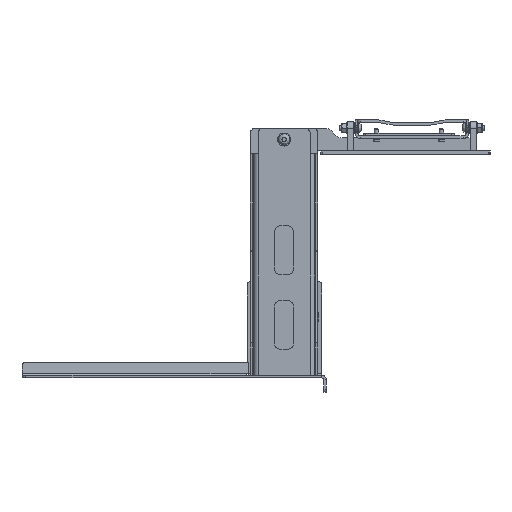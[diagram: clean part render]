
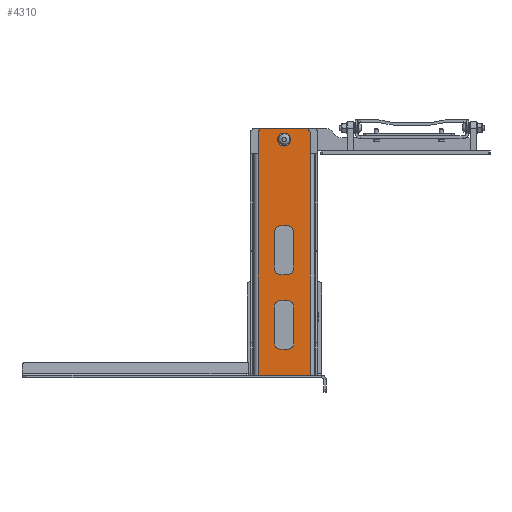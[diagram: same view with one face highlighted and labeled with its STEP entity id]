
A CAD part, front view. The second image highlights one B-rep face of the part: STEP entity #4310.
In plain terms, the highlighted planar face has unit normal (0, -1, 0) as drawn and (0, 1, 0) by its records, which use the part's own axes.
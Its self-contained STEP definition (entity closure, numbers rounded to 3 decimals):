
#4310=ADVANCED_FACE('',(#6431,#6432,#6433,#6434),#6435,.T.);
#6431=FACE_BOUND('',#9123,.T.);
#6432=FACE_BOUND('',#9124,.T.);
#6433=FACE_BOUND('',#9125,.T.);
#6434=FACE_OUTER_BOUND('',#9126,.T.);
#6435=PLANE('',#9127);
#9123=EDGE_LOOP('',(#14320,#14321,#14322,#14323,#14324,#14325,#14326,#14327));
#9124=EDGE_LOOP('',(#14328));
#9125=EDGE_LOOP('',(#14329,#14330,#14331,#14332,#14333,#14334,#14335,#14336));
#9126=EDGE_LOOP('',(#14337,#14338,#14339,#14340,#14341,#14342,#14343,#14344,#14345,#14346,#14347,#14348));
#9127=AXIS2_PLACEMENT_3D('',#14349,#14350,#14351);
#14320=ORIENTED_EDGE('',*,*,#20742,.F.);
#14321=ORIENTED_EDGE('',*,*,#20743,.F.);
#14322=ORIENTED_EDGE('',*,*,#20744,.F.);
#14323=ORIENTED_EDGE('',*,*,#20745,.F.);
#14324=ORIENTED_EDGE('',*,*,#20746,.F.);
#14325=ORIENTED_EDGE('',*,*,#20747,.F.);
#14326=ORIENTED_EDGE('',*,*,#20748,.F.);
#14327=ORIENTED_EDGE('',*,*,#20749,.F.);
#14328=ORIENTED_EDGE('',*,*,#20750,.F.);
#14329=ORIENTED_EDGE('',*,*,#20751,.F.);
#14330=ORIENTED_EDGE('',*,*,#20752,.F.);
#14331=ORIENTED_EDGE('',*,*,#20753,.F.);
#14332=ORIENTED_EDGE('',*,*,#20754,.F.);
#14333=ORIENTED_EDGE('',*,*,#20755,.F.);
#14334=ORIENTED_EDGE('',*,*,#20756,.F.);
#14335=ORIENTED_EDGE('',*,*,#20757,.F.);
#14336=ORIENTED_EDGE('',*,*,#20758,.F.);
#14337=ORIENTED_EDGE('',*,*,#20759,.T.);
#14338=ORIENTED_EDGE('',*,*,#20760,.T.);
#14339=ORIENTED_EDGE('',*,*,#20761,.T.);
#14340=ORIENTED_EDGE('',*,*,#20762,.T.);
#14341=ORIENTED_EDGE('',*,*,#20763,.T.);
#14342=ORIENTED_EDGE('',*,*,#20764,.F.);
#14343=ORIENTED_EDGE('',*,*,#20765,.T.);
#14344=ORIENTED_EDGE('',*,*,#20683,.F.);
#14345=ORIENTED_EDGE('',*,*,#20766,.F.);
#14346=ORIENTED_EDGE('',*,*,#20767,.F.);
#14347=ORIENTED_EDGE('',*,*,#20701,.T.);
#14348=ORIENTED_EDGE('',*,*,#20768,.T.);
#14349=CARTESIAN_POINT('',(150.0,289.0,320.0));
#14350=DIRECTION('',(0.0,1.0,0.0));
#14351=DIRECTION('',(-1.0,0.0,0.0));
#20683=EDGE_CURVE('',#24020,#24023,#24024,.T.);
#20701=EDGE_CURVE('',#24053,#24054,#24055,.T.);
#20742=EDGE_CURVE('',#24130,#24131,#24132,.T.);
#20743=EDGE_CURVE('',#24133,#24130,#24134,.T.);
#20744=EDGE_CURVE('',#24135,#24133,#24136,.T.);
#20745=EDGE_CURVE('',#24137,#24135,#24138,.T.);
#20746=EDGE_CURVE('',#24139,#24137,#24140,.T.);
#20747=EDGE_CURVE('',#24141,#24139,#24142,.T.);
#20748=EDGE_CURVE('',#24143,#24141,#24144,.T.);
#20749=EDGE_CURVE('',#24131,#24143,#24145,.T.);
#20750=EDGE_CURVE('',#24146,#24146,#24147,.T.);
#20751=EDGE_CURVE('',#24148,#24149,#24150,.T.);
#20752=EDGE_CURVE('',#24151,#24148,#24152,.T.);
#20753=EDGE_CURVE('',#24153,#24151,#24154,.T.);
#20754=EDGE_CURVE('',#24155,#24153,#24156,.T.);
#20755=EDGE_CURVE('',#24157,#24155,#24158,.T.);
#20756=EDGE_CURVE('',#24159,#24157,#24160,.T.);
#20757=EDGE_CURVE('',#24161,#24159,#24162,.T.);
#20758=EDGE_CURVE('',#24149,#24161,#24163,.T.);
#20759=EDGE_CURVE('',#24164,#24165,#24166,.T.);
#20760=EDGE_CURVE('',#24165,#24167,#24168,.T.);
#20761=EDGE_CURVE('',#24167,#24169,#24170,.F.);
#20762=EDGE_CURVE('',#24169,#24171,#24172,.T.);
#20763=EDGE_CURVE('',#24171,#24173,#24174,.F.);
#20764=EDGE_CURVE('',#24175,#24173,#24176,.T.);
#20765=EDGE_CURVE('',#24175,#24023,#24177,.T.);
#20766=EDGE_CURVE('',#24178,#24020,#24179,.T.);
#20767=EDGE_CURVE('',#24053,#24178,#24180,.T.);
#20768=EDGE_CURVE('',#24054,#24164,#24181,.T.);
#24020=VERTEX_POINT('',#29103);
#24023=VERTEX_POINT('',#29107);
#24024=LINE('',#29108,#29109);
#24053=VERTEX_POINT('',#29151);
#24054=VERTEX_POINT('',#29152);
#24055=LINE('',#29153,#29154);
#24130=VERTEX_POINT('',#29341);
#24131=VERTEX_POINT('',#29342);
#24132=LINE('',#29343,#29344);
#24133=VERTEX_POINT('',#29345);
#24134=CIRCLE('',#29346,10.0);
#24135=VERTEX_POINT('',#29347);
#24136=LINE('',#29348,#29349);
#24137=VERTEX_POINT('',#29350);
#24138=CIRCLE('',#29351,10.0);
#24139=VERTEX_POINT('',#29352);
#24140=LINE('',#29353,#29354);
#24141=VERTEX_POINT('',#29355);
#24142=CIRCLE('',#29356,10.0);
#24143=VERTEX_POINT('',#29357);
#24144=LINE('',#29358,#29359);
#24145=CIRCLE('',#29360,10.0);
#24146=VERTEX_POINT('',#29361);
#24147=CIRCLE('',#29362,5.1);
#24148=VERTEX_POINT('',#29363);
#24149=VERTEX_POINT('',#29364);
#24150=LINE('',#29365,#29366);
#24151=VERTEX_POINT('',#29367);
#24152=CIRCLE('',#29368,10.0);
#24153=VERTEX_POINT('',#29369);
#24154=LINE('',#29370,#29371);
#24155=VERTEX_POINT('',#29372);
#24156=CIRCLE('',#29373,10.0);
#24157=VERTEX_POINT('',#29374);
#24158=LINE('',#29375,#29376);
#24159=VERTEX_POINT('',#29377);
#24160=CIRCLE('',#29378,10.0);
#24161=VERTEX_POINT('',#29379);
#24162=LINE('',#29380,#29381);
#24163=CIRCLE('',#29382,10.0);
#24164=VERTEX_POINT('',#29383);
#24165=VERTEX_POINT('',#29384);
#24166=LINE('',#29385,#29386);
#24167=VERTEX_POINT('',#29387);
#24168=CIRCLE('',#29388,8.0);
#24169=VERTEX_POINT('',#29389);
#24170=LINE('',#29390,#29391);
#24171=VERTEX_POINT('',#29392);
#24172=CIRCLE('',#29393,8.0);
#24173=VERTEX_POINT('',#29394);
#24174=LINE('',#29395,#29396);
#24175=VERTEX_POINT('',#29397);
#24176=LINE('',#29398,#29399);
#24177=LINE('',#29400,#29401);
#24178=VERTEX_POINT('',#29402);
#24179=LINE('',#29403,#29404);
#24180=LINE('',#29405,#29406);
#24181=LINE('',#29407,#29408);
#29103=CARTESIAN_POINT('',(160.0,289.0,317.0));
#29107=CARTESIAN_POINT('',(160.0,289.0,320.0));
#29108=CARTESIAN_POINT('',(160.0,289.0,317.0));
#29109=VECTOR('',#35549,1.0);
#29151=CARTESIAN_POINT('',(140.0,289.0,320.0));
#29152=CARTESIAN_POINT('',(110.0,289.0,320.0));
#29153=CARTESIAN_POINT('',(150.0,289.0,320.0));
#29154=VECTOR('',#35563,1.0);
#29341=CARTESIAN_POINT('',(155.0,289.0,360.0));
#29342=CARTESIAN_POINT('',(145.0,289.0,360.0));
#29343=CARTESIAN_POINT('',(150.0,289.0,360.0));
#29344=VECTOR('',#35588,1.0);
#29345=CARTESIAN_POINT('',(165.0,289.0,370.0));
#29346=AXIS2_PLACEMENT_3D('',#35589,#35590,#35591);
#29347=CARTESIAN_POINT('',(165.0,289.0,425.0));
#29348=CARTESIAN_POINT('',(165.0,289.0,397.5));
#29349=VECTOR('',#35592,1.0);
#29350=CARTESIAN_POINT('',(155.0,289.0,435.0));
#29351=AXIS2_PLACEMENT_3D('',#35593,#35594,#35595);
#29352=CARTESIAN_POINT('',(145.0,289.0,435.0));
#29353=CARTESIAN_POINT('',(150.0,289.0,435.0));
#29354=VECTOR('',#35596,1.0);
#29355=CARTESIAN_POINT('',(135.0,289.0,425.0));
#29356=AXIS2_PLACEMENT_3D('',#35597,#35598,#35599);
#29357=CARTESIAN_POINT('',(135.0,289.0,370.0));
#29358=CARTESIAN_POINT('',(135.0,289.0,397.5));
#29359=VECTOR('',#35600,1.0);
#29360=AXIS2_PLACEMENT_3D('',#35601,#35602,#35603);
#29361=CARTESIAN_POINT('',(144.9,289.0,682.5));
#29362=AXIS2_PLACEMENT_3D('',#35604,#35605,#35606);
#29363=CARTESIAN_POINT('',(155.0,289.0,475.0));
#29364=CARTESIAN_POINT('',(145.0,289.0,475.0));
#29365=CARTESIAN_POINT('',(150.0,289.0,475.0));
#29366=VECTOR('',#35607,1.0);
#29367=CARTESIAN_POINT('',(165.0,289.0,485.0));
#29368=AXIS2_PLACEMENT_3D('',#35608,#35609,#35610);
#29369=CARTESIAN_POINT('',(165.0,289.0,540.0));
#29370=CARTESIAN_POINT('',(165.0,289.0,512.5));
#29371=VECTOR('',#35611,1.0);
#29372=CARTESIAN_POINT('',(155.0,289.0,550.0));
#29373=AXIS2_PLACEMENT_3D('',#35612,#35613,#35614);
#29374=CARTESIAN_POINT('',(145.0,289.0,550.0));
#29375=CARTESIAN_POINT('',(150.0,289.0,550.0));
#29376=VECTOR('',#35615,1.0);
#29377=CARTESIAN_POINT('',(135.0,289.0,540.0));
#29378=AXIS2_PLACEMENT_3D('',#35616,#35617,#35618);
#29379=CARTESIAN_POINT('',(135.0,289.0,485.0));
#29380=CARTESIAN_POINT('',(135.0,289.0,512.5));
#29381=VECTOR('',#35619,1.0);
#29382=AXIS2_PLACEMENT_3D('',#35620,#35621,#35622);
#29383=CARTESIAN_POINT('',(110.0,289.0,661.0));
#29384=CARTESIAN_POINT('',(110.0,289.0,692.0));
#29385=CARTESIAN_POINT('',(110.0,289.0,320.0));
#29386=VECTOR('',#35623,1.0);
#29387=CARTESIAN_POINT('',(118.0,289.0,700.0));
#29388=AXIS2_PLACEMENT_3D('',#35624,#35625,#35626);
#29389=CARTESIAN_POINT('',(182.0,289.0,700.0));
#29390=CARTESIAN_POINT('',(150.0,289.0,700.0));
#29391=VECTOR('',#35627,1.0);
#29392=CARTESIAN_POINT('',(190.0,289.0,692.0));
#29393=AXIS2_PLACEMENT_3D('',#35628,#35629,#35630);
#29394=CARTESIAN_POINT('',(190.0,289.0,661.0));
#29395=CARTESIAN_POINT('',(190.0,289.0,320.0));
#29396=VECTOR('',#35631,1.0);
#29397=CARTESIAN_POINT('',(190.0,289.0,320.0));
#29398=CARTESIAN_POINT('',(190.0,289.0,320.0));
#29399=VECTOR('',#35632,1.0);
#29400=CARTESIAN_POINT('',(150.0,289.0,320.0));
#29401=VECTOR('',#35633,1.0);
#29402=CARTESIAN_POINT('',(140.0,289.0,317.0));
#29403=CARTESIAN_POINT('',(140.0,289.0,317.0));
#29404=VECTOR('',#35634,1.0);
#29405=CARTESIAN_POINT('',(140.0,289.0,320.0));
#29406=VECTOR('',#35635,1.0);
#29407=CARTESIAN_POINT('',(110.0,289.0,320.0));
#29408=VECTOR('',#35636,1.0);
#35549=DIRECTION('',(0.0,0.,1.0));
#35563=DIRECTION('',(-1.0,0.0,0.0));
#35588=DIRECTION('',(-1.0,0.0,0.0));
#35589=CARTESIAN_POINT('',(155.0,289.0,370.0));
#35590=DIRECTION('',(0.0,1.0,0.0));
#35591=DIRECTION('',(-1.0,0.0,0.0));
#35592=DIRECTION('',(0.,0.0,-1.0));
#35593=CARTESIAN_POINT('',(155.0,289.0,425.0));
#35594=DIRECTION('',(0.0,1.0,0.0));
#35595=DIRECTION('',(-1.0,0.0,0.0));
#35596=DIRECTION('',(1.0,0.0,0.));
#35597=CARTESIAN_POINT('',(145.0,289.0,425.0));
#35598=DIRECTION('',(0.0,1.0,0.0));
#35599=DIRECTION('',(-1.0,0.0,0.0));
#35600=DIRECTION('',(0.,0.0,1.0));
#35601=CARTESIAN_POINT('',(145.0,289.0,370.0));
#35602=DIRECTION('',(0.0,1.0,0.0));
#35603=DIRECTION('',(-1.0,0.0,0.0));
#35604=CARTESIAN_POINT('',(150.0,289.0,682.5));
#35605=DIRECTION('',(0.0,1.0,0.0));
#35606=DIRECTION('',(-1.0,0.0,0.0));
#35607=DIRECTION('',(-1.0,0.0,0.0));
#35608=CARTESIAN_POINT('',(155.0,289.0,485.0));
#35609=DIRECTION('',(0.0,1.0,0.0));
#35610=DIRECTION('',(-1.0,0.0,0.0));
#35611=DIRECTION('',(0.,0.0,-1.0));
#35612=CARTESIAN_POINT('',(155.0,289.0,540.0));
#35613=DIRECTION('',(0.0,1.0,0.0));
#35614=DIRECTION('',(-1.0,0.0,0.0));
#35615=DIRECTION('',(1.0,0.0,0.));
#35616=CARTESIAN_POINT('',(145.0,289.0,540.0));
#35617=DIRECTION('',(0.0,1.0,0.0));
#35618=DIRECTION('',(-1.0,0.0,0.0));
#35619=DIRECTION('',(0.,0.0,1.0));
#35620=CARTESIAN_POINT('',(145.0,289.0,485.0));
#35621=DIRECTION('',(0.0,1.0,0.0));
#35622=DIRECTION('',(-1.0,0.0,0.0));
#35623=DIRECTION('',(0.0,0.0,1.0));
#35624=CARTESIAN_POINT('',(118.0,289.0,692.0));
#35625=DIRECTION('',(0.0,1.0,0.0));
#35626=DIRECTION('',(0.0,0.0,1.0));
#35627=DIRECTION('',(-1.0,0.0,0.0));
#35628=CARTESIAN_POINT('',(182.0,289.0,692.0));
#35629=DIRECTION('',(0.0,1.0,0.0));
#35630=DIRECTION('',(0.0,0.0,1.0));
#35631=DIRECTION('',(0.0,0.0,1.0));
#35632=DIRECTION('',(0.,0.0,1.0));
#35633=DIRECTION('',(-1.0,0.0,0.0));
#35634=DIRECTION('',(1.0,0.0,0.0));
#35635=DIRECTION('',(0.0,0.,-1.0));
#35636=DIRECTION('',(0.0,0.0,1.0));
